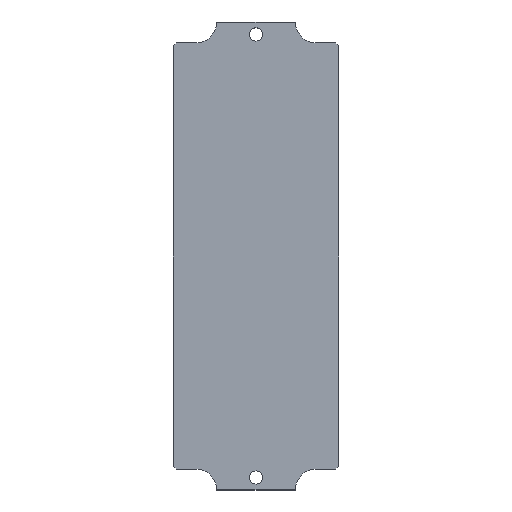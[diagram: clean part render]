
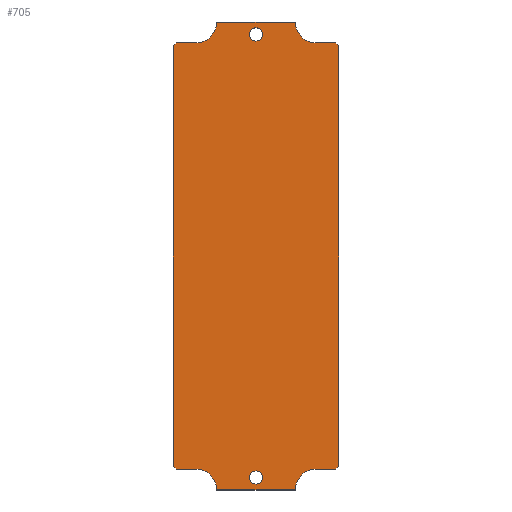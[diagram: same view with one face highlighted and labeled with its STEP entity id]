
A CAD part, top view. The second image highlights one B-rep face of the part: STEP entity #705.
In plain terms, the highlighted planar face has unit normal (0, 0, 1).
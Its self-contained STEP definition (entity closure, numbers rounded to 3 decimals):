
#49=CARTESIAN_POINT('',(30.5,81.25,0.5));
#50=VERTEX_POINT('',#49);
#51=CARTESIAN_POINT('',(31.5,80.25,0.5));
#52=VERTEX_POINT('',#51);
#53=CARTESIAN_POINT('',(30.5,81.25,0.5));
#54=DIRECTION('',(0.707,-0.707,0.0));
#55=VECTOR('',#54,1.414);
#56=LINE('',#53,#55);
#57=EDGE_CURVE('',#50,#52,#56,.T.);
#98=CARTESIAN_POINT('',(23.,81.25,0.5));
#99=VERTEX_POINT('',#98);
#106=CARTESIAN_POINT('',(23.,81.25,0.5));
#107=DIRECTION('',(1.0,0.0,0.0));
#108=VECTOR('',#107,7.5);
#109=LINE('',#106,#108);
#110=EDGE_CURVE('',#99,#50,#109,.T.);
#266=CARTESIAN_POINT('',(-31.5,80.25,0.5));
#267=VERTEX_POINT('',#266);
#268=CARTESIAN_POINT('',(-30.5,81.25,0.5));
#269=VERTEX_POINT('',#268);
#270=CARTESIAN_POINT('',(-31.5,80.25,0.5));
#271=DIRECTION('',(0.707,0.707,0.0));
#272=VECTOR('',#271,1.414);
#273=LINE('',#270,#272);
#274=EDGE_CURVE('',#267,#269,#273,.T.);
#299=CARTESIAN_POINT('',(-31.5,-80.25,0.5));
#300=VERTEX_POINT('',#299);
#307=CARTESIAN_POINT('',(-31.5,-80.25,0.5));
#308=DIRECTION('',(0.0,1.0,0.0));
#309=VECTOR('',#308,160.5);
#310=LINE('',#307,#309);
#311=EDGE_CURVE('',#300,#267,#310,.T.);
#321=CARTESIAN_POINT('',(-30.5,-81.25,0.5));
#322=VERTEX_POINT('',#321);
#323=CARTESIAN_POINT('',(-30.5,-81.25,0.5));
#324=DIRECTION('',(-0.707,0.707,0.0));
#325=VECTOR('',#324,1.414);
#326=LINE('',#323,#325);
#327=EDGE_CURVE('',#322,#300,#326,.T.);
#347=CARTESIAN_POINT('',(-23.,-81.25,0.5));
#348=VERTEX_POINT('',#347);
#355=CARTESIAN_POINT('',(-23.,-81.25,0.5));
#356=DIRECTION('',(-1.0,0.0,0.0));
#357=VECTOR('',#356,7.5);
#358=LINE('',#355,#357);
#359=EDGE_CURVE('',#348,#322,#358,.T.);
#369=CARTESIAN_POINT('',(31.5,-80.25,0.5));
#370=VERTEX_POINT('',#369);
#371=CARTESIAN_POINT('',(30.5,-81.25,0.5));
#372=VERTEX_POINT('',#371);
#373=CARTESIAN_POINT('',(31.5,-80.25,0.5));
#374=DIRECTION('',(-0.707,-0.707,0.0));
#375=VECTOR('',#374,1.414);
#376=LINE('',#373,#375);
#377=EDGE_CURVE('',#370,#372,#376,.T.);
#401=CARTESIAN_POINT('',(23.,-81.25,0.5));
#402=VERTEX_POINT('',#401);
#403=CARTESIAN_POINT('',(30.5,-81.25,0.5));
#404=DIRECTION('',(-1.0,0.0,0.0));
#405=VECTOR('',#404,7.5);
#406=LINE('',#403,#405);
#407=EDGE_CURVE('',#372,#402,#406,.T.);
#448=CARTESIAN_POINT('',(2.5,-84.5,0.5));
#449=VERTEX_POINT('',#448);
#450=CARTESIAN_POINT('',(0.,-84.5,0.5));
#451=DIRECTION('',(0.0,0.0,-1.0));
#452=DIRECTION('',(1.0,0.0,0.0));
#453=AXIS2_PLACEMENT_3D('',#450,#451,#452);
#454=CIRCLE('',#453,2.5);
#455=EDGE_CURVE('',#449,#449,#454,.T.);
#489=CARTESIAN_POINT('',(2.5,84.5,0.5));
#490=VERTEX_POINT('',#489);
#491=CARTESIAN_POINT('',(0.,84.5,0.5));
#492=DIRECTION('',(0.0,0.0,-1.0));
#493=DIRECTION('',(1.0,0.0,0.0));
#494=AXIS2_PLACEMENT_3D('',#491,#492,#493);
#495=CIRCLE('',#494,2.5);
#496=EDGE_CURVE('',#490,#490,#495,.T.);
#507=CARTESIAN_POINT('',(-23.,81.25,0.5));
#508=VERTEX_POINT('',#507);
#509=CARTESIAN_POINT('',(-30.5,81.25,0.5));
#510=DIRECTION('',(1.0,0.0,0.0));
#511=VECTOR('',#510,7.5);
#512=LINE('',#509,#511);
#513=EDGE_CURVE('',#269,#508,#512,.T.);
#530=CARTESIAN_POINT('',(-15.0,89.25,0.5));
#531=VERTEX_POINT('',#530);
#532=CARTESIAN_POINT('',(-23.,89.25,0.5));
#533=DIRECTION('',(0.0,0.0,1.0));
#534=DIRECTION('',(0.0,1.0,0.0));
#535=AXIS2_PLACEMENT_3D('',#532,#533,#534);
#536=CIRCLE('',#535,8.0);
#537=EDGE_CURVE('',#508,#531,#536,.T.);
#555=CARTESIAN_POINT('',(15.0,89.25,0.5));
#556=VERTEX_POINT('',#555);
#557=CARTESIAN_POINT('',(-15.0,89.25,0.5));
#558=DIRECTION('',(1.0,0.0,0.0));
#559=VECTOR('',#558,30.0);
#560=LINE('',#557,#559);
#561=EDGE_CURVE('',#531,#556,#560,.T.);
#579=CARTESIAN_POINT('',(23.,89.25,0.5));
#580=DIRECTION('',(0.0,0.0,1.0));
#581=DIRECTION('',(1.0,0.0,0.0));
#582=AXIS2_PLACEMENT_3D('',#579,#580,#581);
#583=CIRCLE('',#582,8.0);
#584=EDGE_CURVE('',#556,#99,#583,.T.);
#598=CARTESIAN_POINT('',(31.5,80.25,0.5));
#599=DIRECTION('',(0.0,-1.0,0.0));
#600=VECTOR('',#599,160.5);
#601=LINE('',#598,#600);
#602=EDGE_CURVE('',#52,#370,#601,.T.);
#614=CARTESIAN_POINT('',(15.0,-89.25,0.5));
#615=VERTEX_POINT('',#614);
#616=CARTESIAN_POINT('',(23.,-89.25,0.5));
#617=DIRECTION('',(0.0,0.0,1.0));
#618=DIRECTION('',(0.0,-1.0,0.0));
#619=AXIS2_PLACEMENT_3D('',#616,#617,#618);
#620=CIRCLE('',#619,8.0);
#621=EDGE_CURVE('',#402,#615,#620,.T.);
#639=CARTESIAN_POINT('',(-15.0,-89.25,0.5));
#640=VERTEX_POINT('',#639);
#641=CARTESIAN_POINT('',(15.0,-89.25,0.5));
#642=DIRECTION('',(-1.0,0.0,0.0));
#643=VECTOR('',#642,30.0);
#644=LINE('',#641,#643);
#645=EDGE_CURVE('',#615,#640,#644,.T.);
#663=CARTESIAN_POINT('',(-23.,-89.25,0.5));
#664=DIRECTION('',(0.0,0.0,1.0));
#665=DIRECTION('',(-1.0,0.0,0.0));
#666=AXIS2_PLACEMENT_3D('',#663,#664,#665);
#667=CIRCLE('',#666,8.0);
#668=EDGE_CURVE('',#640,#348,#667,.T.);
#676=CARTESIAN_POINT('',(0.0,0.,0.5));
#677=DIRECTION('',(0.0,0.0,1.0));
#678=DIRECTION('',(1.0,0.0,0.0));
#679=AXIS2_PLACEMENT_3D('',#676,#677,#678);
#680=PLANE('',#679);
#681=ORIENTED_EDGE('',*,*,#57,.F.);
#682=ORIENTED_EDGE('',*,*,#110,.F.);
#683=ORIENTED_EDGE('',*,*,#584,.F.);
#684=ORIENTED_EDGE('',*,*,#561,.F.);
#685=ORIENTED_EDGE('',*,*,#537,.F.);
#686=ORIENTED_EDGE('',*,*,#513,.F.);
#687=ORIENTED_EDGE('',*,*,#274,.F.);
#688=ORIENTED_EDGE('',*,*,#311,.F.);
#689=ORIENTED_EDGE('',*,*,#327,.F.);
#690=ORIENTED_EDGE('',*,*,#359,.F.);
#691=ORIENTED_EDGE('',*,*,#668,.F.);
#692=ORIENTED_EDGE('',*,*,#645,.F.);
#693=ORIENTED_EDGE('',*,*,#621,.F.);
#694=ORIENTED_EDGE('',*,*,#407,.F.);
#695=ORIENTED_EDGE('',*,*,#377,.F.);
#696=ORIENTED_EDGE('',*,*,#602,.F.);
#697=EDGE_LOOP('',(#681,#682,#683,#684,#685,#686,#687,#688,#689,#690,#691,#692,#693,#694,#695,#696));
#698=FACE_OUTER_BOUND('',#697,.T.);
#699=ORIENTED_EDGE('',*,*,#455,.T.);
#700=EDGE_LOOP('',(#699));
#701=FACE_BOUND('',#700,.T.);
#702=ORIENTED_EDGE('',*,*,#496,.T.);
#703=EDGE_LOOP('',(#702));
#704=FACE_BOUND('',#703,.T.);
#705=ADVANCED_FACE('',(#698,#701,#704),#680,.T.);
